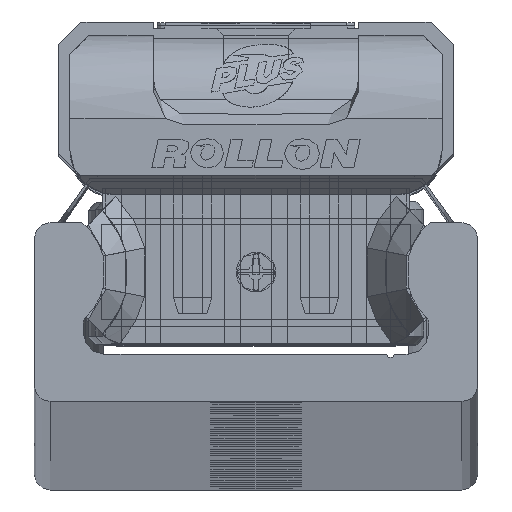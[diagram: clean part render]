
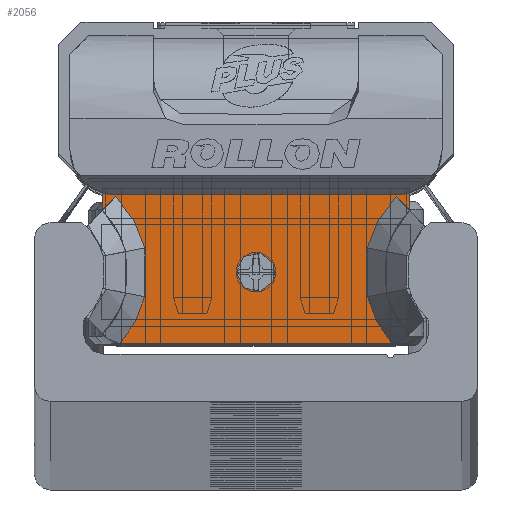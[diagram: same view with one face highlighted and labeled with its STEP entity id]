
A CAD part, top view. The second image highlights one B-rep face of the part: STEP entity #2056.
In plain terms, the highlighted planar face has unit normal (0, 0, 1) as drawn and (0, 0, -1) by its records, which use the part's own axes.
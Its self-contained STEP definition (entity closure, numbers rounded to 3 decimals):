
#2056 = ADVANCED_FACE( '', ( #4421, #4422 ), #4423, .F. );
#4421 = FACE_BOUND( '', #6967, .T. );
#4422 = FACE_OUTER_BOUND( '', #6968, .T. );
#4423 = PLANE( '', #6969 );
#6967 = EDGE_LOOP( '', ( #12525 ) );
#6968 = EDGE_LOOP( '', ( #12526, #12527, #12528, #12529, #12530, #12531, #12532, #12533, #12534, #12535, #12536, #12537, #12538, #12539 ) );
#6969 = AXIS2_PLACEMENT_3D( '', #12540, #12541, #12542 );
#12525 = ORIENTED_EDGE( '', *, *, #15551, .T. );
#12526 = ORIENTED_EDGE( '', *, *, #14154, .F. );
#12527 = ORIENTED_EDGE( '', *, *, #15087, .T. );
#12528 = ORIENTED_EDGE( '', *, *, #13539, .T. );
#12529 = ORIENTED_EDGE( '', *, *, #15552, .T. );
#12530 = ORIENTED_EDGE( '', *, *, #15016, .T. );
#12531 = ORIENTED_EDGE( '', *, *, #14939, .T. );
#12532 = ORIENTED_EDGE( '', *, *, #13628, .T. );
#12533 = ORIENTED_EDGE( '', *, *, #15553, .T. );
#12534 = ORIENTED_EDGE( '', *, *, #15349, .T. );
#12535 = ORIENTED_EDGE( '', *, *, #13406, .T. );
#12536 = ORIENTED_EDGE( '', *, *, #13487, .T. );
#12537 = ORIENTED_EDGE( '', *, *, #15513, .T. );
#12538 = ORIENTED_EDGE( '', *, *, #14722, .T. );
#12539 = ORIENTED_EDGE( '', *, *, #15554, .T. );
#12540 = CARTESIAN_POINT( '', ( 9.7, 4.89, -10.6 ) );
#12541 = DIRECTION( '', ( 0., 0., 1. ) );
#12542 = DIRECTION( '', ( 1., 0., 0. ) );
#13406 = EDGE_CURVE( '', #15748, #15769, #15771, .T. );
#13487 = EDGE_CURVE( '', #15769, #15915, #15917, .T. );
#13539 = EDGE_CURVE( '', #16001, #16005, #16007, .T. );
#13628 = EDGE_CURVE( '', #16160, #16161, #16162, .T. );
#14154 = EDGE_CURVE( '', #17073, #17075, #17076, .T. );
#14722 = EDGE_CURVE( '', #17947, #17948, #17949, .T. );
#14939 = EDGE_CURVE( '', #18153, #16160, #18272, .T. );
#15016 = EDGE_CURVE( '', #18368, #18153, #18369, .T. );
#15087 = EDGE_CURVE( '', #17073, #16001, #18462, .T. );
#15349 = EDGE_CURVE( '', #18773, #15748, #18774, .T. );
#15513 = EDGE_CURVE( '', #15915, #17947, #18973, .T. );
#15551 = EDGE_CURVE( '', #19015, #19015, #19016, .T. );
#15552 = EDGE_CURVE( '', #16005, #18368, #19017, .T. );
#15553 = EDGE_CURVE( '', #16161, #18773, #19018, .T. );
#15554 = EDGE_CURVE( '', #17948, #17075, #19019, .T. );
#15748 = VERTEX_POINT( '', #19242 );
#15769 = VERTEX_POINT( '', #19269 );
#15771 = LINE( '', #19272, #19273 );
#15915 = VERTEX_POINT( '', #19491 );
#15917 = B_SPLINE_CURVE_WITH_KNOTS( '', 2, ( #19494, #19495, #19496 ), .UNSPECIFIED., .F., .F., ( 3, 3 ), ( 0.1, 1. ), .UNSPECIFIED. );
#16001 = VERTEX_POINT( '', #19600 );
#16005 = VERTEX_POINT( '', #19606 );
#16007 = LINE( '', #19609, #19610 );
#16160 = VERTEX_POINT( '', #19808 );
#16161 = VERTEX_POINT( '', #19809 );
#16162 = B_SPLINE_CURVE_WITH_KNOTS( '', 2, ( #19810, #19811, #19812, #19813, #19814 ), .UNSPECIFIED., .F., .F., ( 3, 2, 3 ), ( 0., 0.5, 1. ), .UNSPECIFIED. );
#17073 = VERTEX_POINT( '', #21162 );
#17075 = VERTEX_POINT( '', #21165 );
#17076 = LINE( '', #21166, #21167 );
#17947 = VERTEX_POINT( '', #22337 );
#17948 = VERTEX_POINT( '', #22338 );
#17949 = B_SPLINE_CURVE_WITH_KNOTS( '', 2, ( #22339, #22340, #22341 ), .UNSPECIFIED., .F., .F., ( 3, 3 ), ( 0., 1. ), .UNSPECIFIED. );
#18153 = VERTEX_POINT( '', #22653 );
#18272 = LINE( '', #22820, #22821 );
#18368 = VERTEX_POINT( '', #22959 );
#18369 = LINE( '', #22960, #22961 );
#18462 = CIRCLE( '', #23095, 2.8 );
#18773 = VERTEX_POINT( '', #23513 );
#18774 = B_SPLINE_CURVE_WITH_KNOTS( '', 2, ( #23514, #23515, #23516 ), .UNSPECIFIED., .F., .F., ( 3, 3 ), ( 0., 1. ), .UNSPECIFIED. );
#18973 = B_SPLINE_CURVE_WITH_KNOTS( '', 2, ( #23765, #23766, #23767 ), .UNSPECIFIED., .F., .F., ( 3, 3 ), ( 0., 1. ), .UNSPECIFIED. );
#19015 = VERTEX_POINT( '', #23863 );
#19016 = CIRCLE( '', #23864, 1.25 );
#19017 = CIRCLE( '', #23865, 2.8 );
#19018 = B_SPLINE_CURVE_WITH_KNOTS( '', 2, ( #23866, #23867, #23868 ), .UNSPECIFIED., .F., .F., ( 3, 3 ), ( 0., 1. ), .UNSPECIFIED. );
#19019 = LINE( '', #23869, #23870 );
#19242 = CARTESIAN_POINT( '', ( 8.59, -4.893, -10.6 ) );
#19269 = CARTESIAN_POINT( '', ( -8.59, -4.893, -10.6 ) );
#19272 = CARTESIAN_POINT( '', ( 9.7, -4.89, -10.6 ) );
#19273 = VECTOR( '', #24097, 1000. );
#19491 = CARTESIAN_POINT( '', ( -7.031, -1.944, -10.6 ) );
#19494 = CARTESIAN_POINT( '', ( -8.587, -4.89, -10.6 ) );
#19495 = CARTESIAN_POINT( '', ( -7.432, -3.63, -10.6 ) );
#19496 = CARTESIAN_POINT( '', ( -7.031, -1.944, -10.6 ) );
#19600 = CARTESIAN_POINT( '', ( -8.95, 4.51, -10.6 ) );
#19606 = CARTESIAN_POINT( '', ( 8.95, 4.51, -10.6 ) );
#19609 = CARTESIAN_POINT( '', ( 9.7, 4.51, -10.6 ) );
#19610 = VECTOR( '', #24266, 1000. );
#19808 = CARTESIAN_POINT( '', ( 8.853, 4.366, -10.6 ) );
#19809 = CARTESIAN_POINT( '', ( 7.031, 1.144, -10.6 ) );
#19810 = CARTESIAN_POINT( '', ( 8.853, 4.366, -10.6 ) );
#19811 = CARTESIAN_POINT( '', ( 8.182, 3.708, -10.6 ) );
#19812 = CARTESIAN_POINT( '', ( 7.715, 2.883, -10.6 ) );
#19813 = CARTESIAN_POINT( '', ( 7.249, 2.058, -10.6 ) );
#19814 = CARTESIAN_POINT( '', ( 7.031, 1.144, -10.6 ) );
#21162 = CARTESIAN_POINT( '', ( -9.7, 4.612, -10.6 ) );
#21165 = CARTESIAN_POINT( '', ( -9.7, 3.494, -10.6 ) );
#21166 = CARTESIAN_POINT( '', ( -9.7, 4.89, -10.6 ) );
#21167 = VECTOR( '', #25236, 1000. );
#22337 = CARTESIAN_POINT( '', ( -7.031, 1.144, -10.6 ) );
#22338 = CARTESIAN_POINT( '', ( -8.853, 4.366, -10.6 ) );
#22339 = CARTESIAN_POINT( '', ( -7.031, 1.144, -10.6 ) );
#22340 = CARTESIAN_POINT( '', ( -7.477, 3.018, -10.6 ) );
#22341 = CARTESIAN_POINT( '', ( -8.853, 4.366, -10.6 ) );
#22653 = CARTESIAN_POINT( '', ( 9.7, 3.497, -10.6 ) );
#22820 = CARTESIAN_POINT( '', ( 9.7, 3.501, -10.6 ) );
#22821 = VECTOR( '', #26280, 1000. );
#22959 = CARTESIAN_POINT( '', ( 9.7, 4.612, -10.6 ) );
#22960 = CARTESIAN_POINT( '', ( 9.7, 4.89, -10.6 ) );
#22961 = VECTOR( '', #26361, 1000. );
#23095 = AXIS2_PLACEMENT_3D( '', #26438, #26439, #26440 );
#23513 = CARTESIAN_POINT( '', ( 7.031, -1.944, -10.6 ) );
#23514 = CARTESIAN_POINT( '', ( 7.031, -1.944, -10.6 ) );
#23515 = CARTESIAN_POINT( '', ( 7.429, -3.615, -10.6 ) );
#23516 = CARTESIAN_POINT( '', ( 8.588, -4.89, -10.6 ) );
#23765 = CARTESIAN_POINT( '', ( -7.031, -1.944, -10.6 ) );
#23766 = CARTESIAN_POINT( '', ( -6.929, -0.4, -10.6 ) );
#23767 = CARTESIAN_POINT( '', ( -7.031, 1.144, -10.6 ) );
#23863 = CARTESIAN_POINT( '', ( 1.25, -0.39, -10.6 ) );
#23864 = AXIS2_PLACEMENT_3D( '', #26872, #26873, #26874 );
#23865 = AXIS2_PLACEMENT_3D( '', #26875, #26876, #26877 );
#23866 = CARTESIAN_POINT( '', ( 7.031, 1.144, -10.6 ) );
#23867 = CARTESIAN_POINT( '', ( 6.929, -0.4, -10.6 ) );
#23868 = CARTESIAN_POINT( '', ( 7.031, -1.944, -10.6 ) );
#23869 = CARTESIAN_POINT( '', ( -8.853, 4.366, -10.6 ) );
#23870 = VECTOR( '', #26878, 1000. );
#24097 = DIRECTION( '', ( -1., 0., 0. ) );
#24266 = DIRECTION( '', ( 1., 0., 0. ) );
#25236 = DIRECTION( '', ( 0., -1., 0. ) );
#26280 = DIRECTION( '', ( -0.7, 0.714, 0. ) );
#26361 = DIRECTION( '', ( 0., -1., 0. ) );
#26438 = CARTESIAN_POINT( '', ( -8.95, 7.31, -10.6 ) );
#26439 = DIRECTION( '', ( 0., 0., 1. ) );
#26440 = DIRECTION( '', ( 1., 0., 0. ) );
#26872 = CARTESIAN_POINT( '', ( 0., -0.39, -10.6 ) );
#26873 = DIRECTION( '', ( 0., 0., 1. ) );
#26874 = DIRECTION( '', ( 1., 0., 0. ) );
#26875 = CARTESIAN_POINT( '', ( 8.95, 7.31, -10.6 ) );
#26876 = DIRECTION( '', ( 0., 0., 1. ) );
#26877 = DIRECTION( '', ( 1., 0., 0. ) );
#26878 = DIRECTION( '', ( -0.7, -0.714, 0. ) );
